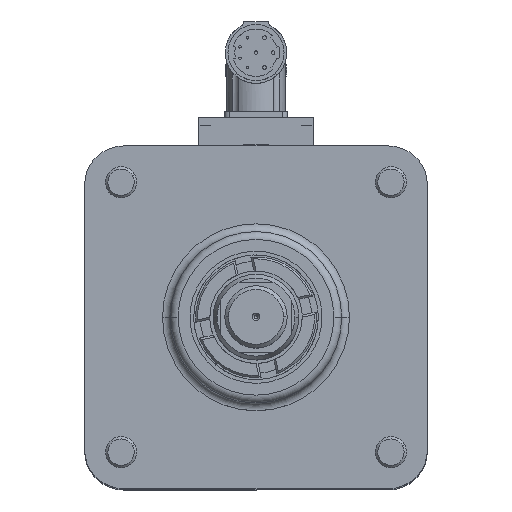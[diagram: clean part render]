
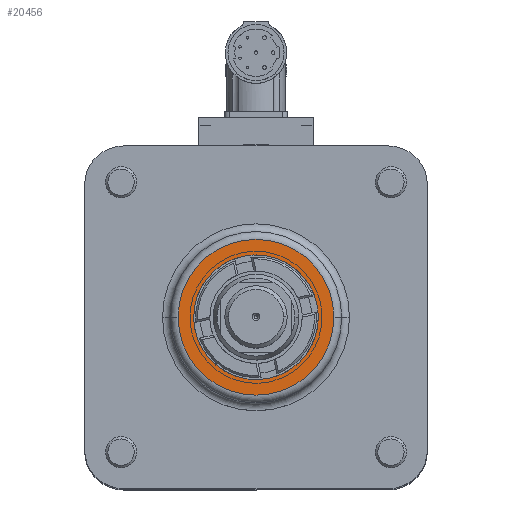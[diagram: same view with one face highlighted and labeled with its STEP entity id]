
A CAD part, top view. The second image highlights one B-rep face of the part: STEP entity #20456.
In plain terms, the highlighted planar face has unit normal (0, 0, 1).
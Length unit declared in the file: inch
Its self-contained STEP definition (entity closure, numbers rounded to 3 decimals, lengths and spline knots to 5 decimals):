
#20456 = ADVANCED_FACE ( 'NONE', ( #26509, #26508 ), #26333, .T. ) ;
#20457 = EDGE_LOOP ( 'NONE', ( #20458, #20460 ) ) ;
#20458 = ORIENTED_EDGE ( 'NONE', *, *, #20459, .F. ) ;
#20459 = EDGE_CURVE ( 'NONE', #20649, #20646, #26507, .T. ) ;
#20460 = ORIENTED_EDGE ( 'NONE', *, *, #20648, .F. ) ;
#20461 = EDGE_LOOP ( 'NONE', ( #20462, #20463 ) ) ;
#20462 = ORIENTED_EDGE ( 'NONE', *, *, #20578, .T. ) ;
#20463 = ORIENTED_EDGE ( 'NONE', *, *, #20464, .T. ) ;
#20464 = EDGE_CURVE ( 'NONE', #20576, #20579, #26470, .T. ) ;
#20576 = VERTEX_POINT ( 'NONE', #26760 ) ;
#20578 = EDGE_CURVE ( 'NONE', #20579, #20576, #26757, .T. ) ;
#20579 = VERTEX_POINT ( 'NONE', #26751 ) ;
#20646 = VERTEX_POINT ( 'NONE', #27146 ) ;
#20648 = EDGE_CURVE ( 'NONE', #20646, #20649, #27236, .T. ) ;
#20649 = VERTEX_POINT ( 'NONE', #27231 ) ;
#26290 = DIRECTION ( 'NONE',  ( 1., 0., 0. ) ) ;
#26291 = DIRECTION ( 'NONE',  ( 0., 0., 1. ) ) ;
#26292 = CARTESIAN_POINT ( 'NONE',  ( 0., 0., 1.375 ) ) ;
#26293 = AXIS2_PLACEMENT_3D ( 'NONE', #26292, #26291, #26290 ) ;
#26294 = CARTESIAN_POINT ( 'NONE',  ( 0., 0., 1.375 ) ) ;
#26333 = PLANE ( 'NONE',  #26506 ) ;
#26466 = DIRECTION ( 'NONE',  ( 1., 0., 0. ) ) ;
#26467 = DIRECTION ( 'NONE',  ( 0., 0., 1. ) ) ;
#26469 = AXIS2_PLACEMENT_3D ( 'NONE', #26294, #26467, #26466 ) ;
#26470 = CIRCLE ( 'NONE', #26469, 1.25 ) ;
#26503 = DIRECTION ( 'NONE',  ( 1., 0., 0. ) ) ;
#26504 = DIRECTION ( 'NONE',  ( 0., 0., 1. ) ) ;
#26505 = CARTESIAN_POINT ( 'NONE',  ( 0., 0., 1.375 ) ) ;
#26506 = AXIS2_PLACEMENT_3D ( 'NONE', #26505, #26504, #26503 ) ;
#26507 = CIRCLE ( 'NONE', #26293, 1. ) ;
#26508 = FACE_OUTER_BOUND ( 'NONE', #20461, .T. ) ;
#26509 = FACE_BOUND ( 'NONE', #20457, .T. ) ;
#26751 = CARTESIAN_POINT ( 'NONE',  ( 1.25, 0., 1.375 ) ) ;
#26752 = DIRECTION ( 'NONE',  ( 1., 0., 0. ) ) ;
#26753 = DIRECTION ( 'NONE',  ( 0., 0., 1. ) ) ;
#26754 = CARTESIAN_POINT ( 'NONE',  ( 0., 0., 1.375 ) ) ;
#26756 = AXIS2_PLACEMENT_3D ( 'NONE', #26754, #26753, #26752 ) ;
#26757 = CIRCLE ( 'NONE', #26756, 1.25 ) ;
#26760 = CARTESIAN_POINT ( 'NONE',  ( -1.25, 0., 1.375 ) ) ;
#27146 = CARTESIAN_POINT ( 'NONE',  ( -1., 0., 1.375 ) ) ;
#27231 = CARTESIAN_POINT ( 'NONE',  ( 1., 0., 1.375 ) ) ;
#27232 = DIRECTION ( 'NONE',  ( 1., 0., 0. ) ) ;
#27233 = DIRECTION ( 'NONE',  ( 0., 0., 1. ) ) ;
#27234 = CARTESIAN_POINT ( 'NONE',  ( 0., 0., 1.375 ) ) ;
#27235 = AXIS2_PLACEMENT_3D ( 'NONE', #27234, #27233, #27232 ) ;
#27236 = CIRCLE ( 'NONE', #27235, 1. ) ;
